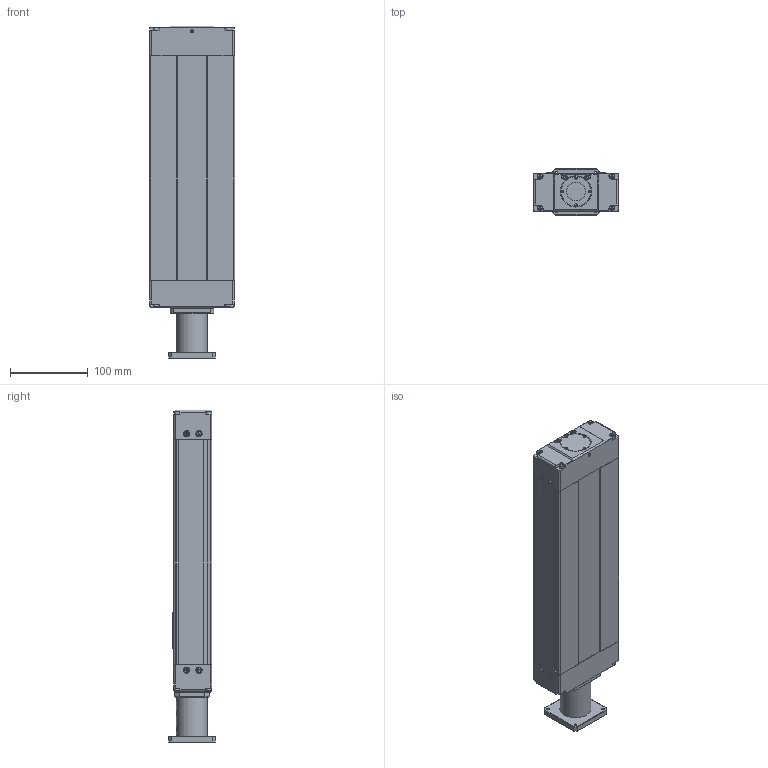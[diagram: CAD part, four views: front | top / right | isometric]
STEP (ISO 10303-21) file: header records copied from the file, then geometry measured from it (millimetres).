
FILE_DESCRIPTION((''),'2;1');
FILE_NAME('C:\My Documents\Transtechnik\STEP\CTV 110 S 0.stp','2010-11-08T14:54:33',('pgrilc'),(''),'Autodesk Inventor 2011','Autodesk Inventor 2011','');
FILE_SCHEMA(('AUTOMOTIVE_DESIGN { 1 0 10303 214 1 1 1 1 }'));
Length unit declared in the file: millimetre
Products named in the file (6): CTV 110 S 0; PROFIL CTV 110 S; KONČNIK ZADNJI CTV 110; KONČNIK SPREDNJI CTV 110; VOZIČEK CTV 110 S; VMESNIK CTV110-M60
Assembly tree (5 placements, depth 2):
  CTV 110 S 0
    PROFIL CTV 110 S
    KONČNIK ZADNJI CTV 110
    KONČNIK SPREDNJI CTV 110
    VOZIČEK CTV 110 S
    VMESNIK CTV110-M60
Bounding box: 110 x 60 x 428 mm (x, y, z)
Volume: 1890906.5 mm3; surface area: 223338.2 mm2
Topology: 6 solids, 16 shells, 652 faces, 1690 edges, 1103 vertices
Faces by surface type: plane 379, cylinder 187, cone 55, torus 31
Full cylindrical faces by diameter (mm): 1.7 x2, 3 x4, 3.242 x6, 4 x8, 4.134 x4, 4.2 x4, 4.5 x4, 4.917 x4, 5 x4, 6.5 x4, 7 x20, 8 x8, 10 x6, 11 x1, 11.5 x1, 12 x2, 20 x1, 29 x1, 30 x1, 32 x1, 36 x1, 37 x1, 40 x3
Entity records: 19282 total; most frequent: CARTESIAN_POINT 3704, DIRECTION 3048, ORIENTED_EDGE 2882, EDGE_CURVE 1441, AXIS2_PLACEMENT_3D 1102, VERTEX_POINT 1025, EDGE_LOOP 922, VECTOR 844
